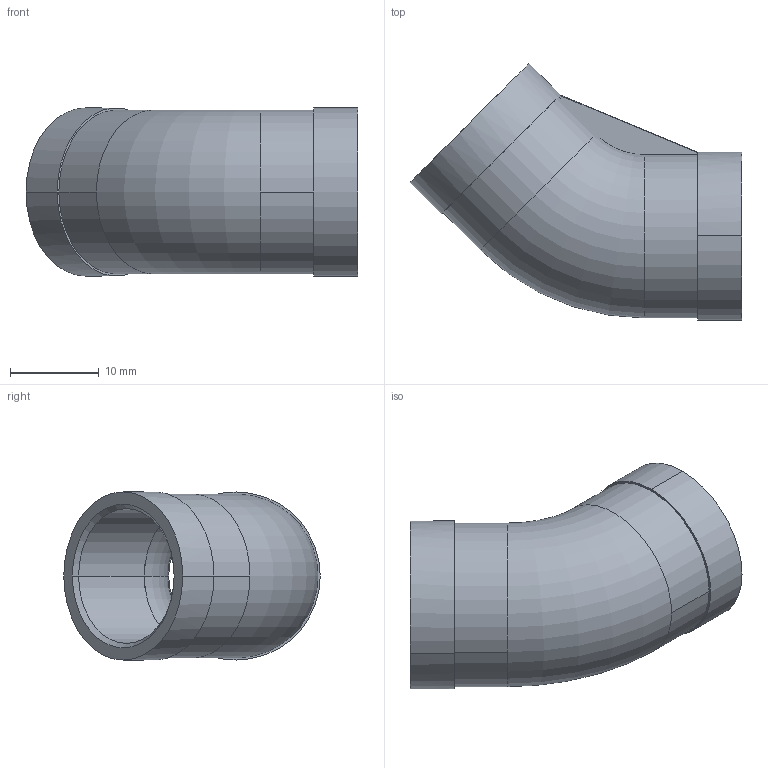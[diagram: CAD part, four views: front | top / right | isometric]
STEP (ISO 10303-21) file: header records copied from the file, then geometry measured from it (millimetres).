
FILE_DESCRIPTION (( 'STEP AP203' ), '1' );
FILE_NAME ('Wiberger-wn8626-a4-3-8tum.step', '2025-03-11T09:14:36', ( '' ), ( '' ), 'SwSTEP 2.0', 'SolidWorks 2023', '' );
FILE_SCHEMA (( 'CONFIG_CONTROL_DESIGN' ));
Length unit declared in the file: millimetre
Products named in the file (1): Wiberger-wn8626-a4-3-8tum
Bounding box: 37.52 x 28.97 x 19 mm (x, y, z)
Volume: 3165.2 mm3; surface area: 4052.4 mm2
Topology: 1 solids, 1 shells, 28 faces, 64 edges, 40 vertices
Faces by surface type: cylinder 12, plane 8, cone 4, torus 3, bspline 1
Entity records: 888 total; most frequent: DIRECTION 160, CARTESIAN_POINT 140, ORIENTED_EDGE 128, AXIS2_PLACEMENT_3D 68, EDGE_CURVE 64, VERTEX_POINT 40, CIRCLE 40, EDGE_LOOP 32
